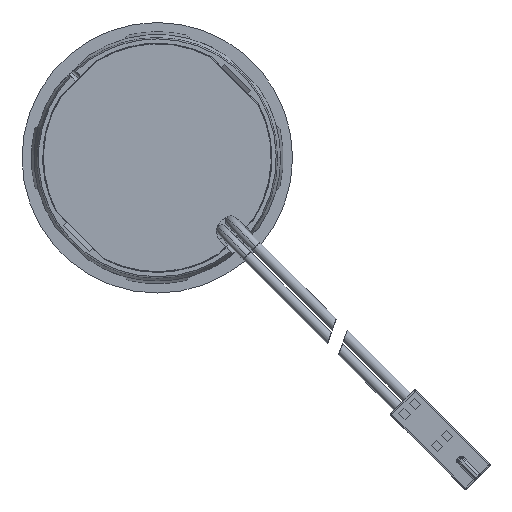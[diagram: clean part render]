
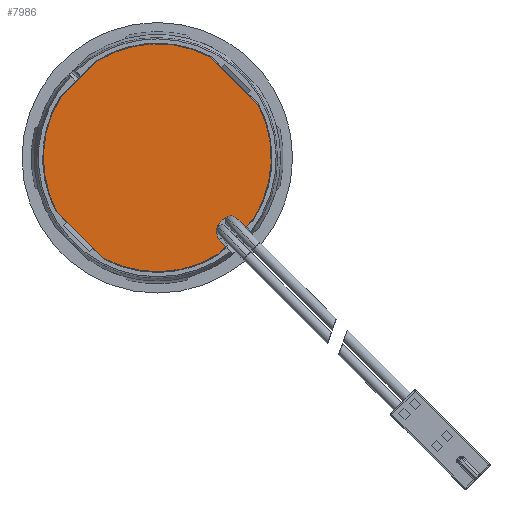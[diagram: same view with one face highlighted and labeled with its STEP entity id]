
A CAD part, front view. The second image highlights one B-rep face of the part: STEP entity #7986.
In plain terms, the highlighted planar face has unit normal (0, -1, 0) as drawn and (0, 0, -1) by its records, which use the part's own axes.
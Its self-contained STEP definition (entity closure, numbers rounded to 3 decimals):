
#592 = DIRECTION ( 'NONE',  ( 0., 1., 0. ) ) ;
#624 = ORIENTED_EDGE ( 'NONE', *, *, #2344, .F. ) ;
#666 = ORIENTED_EDGE ( 'NONE', *, *, #26565, .F. ) ;
#756 = EDGE_CURVE ( 'NONE', #27234, #25513, #22938, .T. ) ;
#1030 = VERTEX_POINT ( 'NONE', #17027 ) ;
#1042 = ORIENTED_EDGE ( 'NONE', *, *, #27023, .T. ) ;
#1201 = DIRECTION ( 'NONE',  ( 0., 0., 1. ) ) ;
#2344 = EDGE_CURVE ( 'NONE', #1030, #19379, #8933, .T. ) ;
#2749 = DIRECTION ( 'NONE',  ( 0., 1., 0. ) ) ;
#3357 = VERTEX_POINT ( 'NONE', #9403 ) ;
#3564 = VECTOR ( 'NONE', #19241, 1000. ) ;
#3671 = LINE ( 'NONE', #20546, #17444 ) ;
#4067 = ORIENTED_EDGE ( 'NONE', *, *, #8913, .F. ) ;
#4158 = CARTESIAN_POINT ( 'NONE',  ( -15.6, 3.555, 0. ) ) ;
#4209 = VERTEX_POINT ( 'NONE', #7648 ) ;
#4232 = LINE ( 'NONE', #12946, #3564 ) ;
#4383 = AXIS2_PLACEMENT_3D ( 'NONE', #8517, #26016, #6535 ) ;
#4529 = CARTESIAN_POINT ( 'NONE',  ( 15.6, -3.555, 0. ) ) ;
#4786 = LINE ( 'NONE', #10935, #12838 ) ;
#5580 = DIRECTION ( 'NONE',  ( -0.975, -0.222, 0. ) ) ;
#5816 = DIRECTION ( 'NONE',  ( 0., 1., 0. ) ) ;
#6535 = DIRECTION ( 'NONE',  ( -0.293, 0.956, 0. ) ) ;
#6566 = ORIENTED_EDGE ( 'NONE', *, *, #22441, .F. ) ;
#7272 = ORIENTED_EDGE ( 'NONE', *, *, #10102, .F. ) ;
#7621 = LINE ( 'NONE', #7905, #10685 ) ;
#7648 = CARTESIAN_POINT ( 'NONE',  ( 15.6, -2., 0. ) ) ;
#7789 = AXIS2_PLACEMENT_3D ( 'NONE', #20789, #1201, #9912 ) ;
#7905 = CARTESIAN_POINT ( 'NONE',  ( 15.6, 2., 0. ) ) ;
#7961 = VERTEX_POINT ( 'NONE', #18371 ) ;
#7986 = ADVANCED_FACE ( 'NONE', ( #16216 ), #25395, .F. ) ;
#8375 = AXIS2_PLACEMENT_3D ( 'NONE', #23097, #12206, #20932 ) ;
#8385 = CIRCLE ( 'NONE', #15249, 16. ) ;
#8517 = CARTESIAN_POINT ( 'NONE',  ( 0., 0., 0. ) ) ;
#8863 = VERTEX_POINT ( 'NONE', #15359 ) ;
#8913 = EDGE_CURVE ( 'NONE', #4209, #22495, #4786, .T. ) ;
#8933 = CIRCLE ( 'NONE', #4383, 16. ) ;
#9403 = CARTESIAN_POINT ( 'NONE',  ( 4.681, 15.3, 0. ) ) ;
#9912 = DIRECTION ( 'NONE',  ( 1., 0., 0. ) ) ;
#9981 = ORIENTED_EDGE ( 'NONE', *, *, #21409, .T. ) ;
#10102 = EDGE_CURVE ( 'NONE', #25513, #4209, #3671, .T. ) ;
#10399 = LINE ( 'NONE', #24012, #11862 ) ;
#10672 = VERTEX_POINT ( 'NONE', #22208 ) ;
#10685 = VECTOR ( 'NONE', #16634, 1000. ) ;
#10935 = CARTESIAN_POINT ( 'NONE',  ( 15.6, -2., 0. ) ) ;
#11053 = CARTESIAN_POINT ( 'NONE',  ( 0., 0., 0. ) ) ;
#11862 = VECTOR ( 'NONE', #17251, 1000. ) ;
#11863 = DIRECTION ( 'NONE',  ( 0., 0., 1. ) ) ;
#12021 = EDGE_CURVE ( 'NONE', #22495, #8863, #20713, .T. ) ;
#12206 = DIRECTION ( 'NONE',  ( 0., 0., -1. ) ) ;
#12767 = CARTESIAN_POINT ( 'NONE',  ( 0., 0., 0. ) ) ;
#12838 = VECTOR ( 'NONE', #17941, 1000. ) ;
#12872 = EDGE_LOOP ( 'NONE', ( #4067, #7272, #17563, #9981, #15973, #1042, #624, #25730, #6566, #666, #22054, #24241 ) ) ;
#12946 = CARTESIAN_POINT ( 'NONE',  ( -4.681, 15.3, 0. ) ) ;
#13180 = CARTESIAN_POINT ( 'NONE',  ( 15.6, 2., 0. ) ) ;
#13349 = DIRECTION ( 'NONE',  ( 0.293, -0.956, 0. ) ) ;
#13756 = VECTOR ( 'NONE', #592, 1000. ) ;
#15249 = AXIS2_PLACEMENT_3D ( 'NONE', #12767, #24082, #24224 ) ;
#15359 = CARTESIAN_POINT ( 'NONE',  ( 14.6, 2., 0. ) ) ;
#15516 = CARTESIAN_POINT ( 'NONE',  ( 4.681, -15.3, 0. ) ) ;
#15973 = ORIENTED_EDGE ( 'NONE', *, *, #21046, .F. ) ;
#16207 = CARTESIAN_POINT ( 'NONE',  ( -4.681, -15.3, 0. ) ) ;
#16216 = FACE_OUTER_BOUND ( 'NONE', #12872, .T. ) ;
#16634 = DIRECTION ( 'NONE',  ( -1., 0., 0. ) ) ;
#17027 = CARTESIAN_POINT ( 'NONE',  ( -4.681, 15.3, 0. ) ) ;
#17251 = DIRECTION ( 'NONE',  ( -1., 0., 0. ) ) ;
#17321 = LINE ( 'NONE', #13180, #13756 ) ;
#17444 = VECTOR ( 'NONE', #5816, 1000. ) ;
#17473 = CARTESIAN_POINT ( 'NONE',  ( 14.6, -2., 0. ) ) ;
#17563 = ORIENTED_EDGE ( 'NONE', *, *, #756, .F. ) ;
#17781 = CIRCLE ( 'NONE', #21455, 16. ) ;
#17941 = DIRECTION ( 'NONE',  ( -1., 0., 0. ) ) ;
#18371 = CARTESIAN_POINT ( 'NONE',  ( -15.6, -3.555, 0. ) ) ;
#18385 = EDGE_CURVE ( 'NONE', #1030, #3357, #4232, .T. ) ;
#18819 = AXIS2_PLACEMENT_3D ( 'NONE', #11053, #19777, #13349 ) ;
#19241 = DIRECTION ( 'NONE',  ( 1., 0., 0. ) ) ;
#19379 = VERTEX_POINT ( 'NONE', #4158 ) ;
#19777 = DIRECTION ( 'NONE',  ( 0., 0., 1. ) ) ;
#20139 = VECTOR ( 'NONE', #2749, 1000. ) ;
#20546 = CARTESIAN_POINT ( 'NONE',  ( 15.6, -3.555, 0. ) ) ;
#20713 = CIRCLE ( 'NONE', #8375, 2. ) ;
#20789 = CARTESIAN_POINT ( 'NONE',  ( 0., 0., 0. ) ) ;
#20932 = DIRECTION ( 'NONE',  ( 0., -1., 0. ) ) ;
#21046 = EDGE_CURVE ( 'NONE', #7961, #26363, #17781, .T. ) ;
#21195 = VERTEX_POINT ( 'NONE', #23172 ) ;
#21409 = EDGE_CURVE ( 'NONE', #27234, #26363, #10399, .T. ) ;
#21455 = AXIS2_PLACEMENT_3D ( 'NONE', #25187, #11863, #5580 ) ;
#22054 = ORIENTED_EDGE ( 'NONE', *, *, #22187, .T. ) ;
#22187 = EDGE_CURVE ( 'NONE', #10672, #8863, #7621, .T. ) ;
#22208 = CARTESIAN_POINT ( 'NONE',  ( 15.6, 2., 0. ) ) ;
#22441 = EDGE_CURVE ( 'NONE', #21195, #3357, #8385, .T. ) ;
#22495 = VERTEX_POINT ( 'NONE', #17473 ) ;
#22650 = CARTESIAN_POINT ( 'NONE',  ( -15.6, -3.555, 0. ) ) ;
#22938 = CIRCLE ( 'NONE', #18819, 16. ) ;
#23097 = CARTESIAN_POINT ( 'NONE',  ( 14.6, 0., 0. ) ) ;
#23172 = CARTESIAN_POINT ( 'NONE',  ( 15.6, 3.555, 0. ) ) ;
#24012 = CARTESIAN_POINT ( 'NONE',  ( 4.681, -15.3, 0. ) ) ;
#24082 = DIRECTION ( 'NONE',  ( 0., 0., 1. ) ) ;
#24224 = DIRECTION ( 'NONE',  ( 0.975, 0.222, 0. ) ) ;
#24241 = ORIENTED_EDGE ( 'NONE', *, *, #12021, .F. ) ;
#25187 = CARTESIAN_POINT ( 'NONE',  ( 0., 0., 0. ) ) ;
#25395 = PLANE ( 'NONE',  #7789 ) ;
#25513 = VERTEX_POINT ( 'NONE', #4529 ) ;
#25730 = ORIENTED_EDGE ( 'NONE', *, *, #18385, .T. ) ;
#26016 = DIRECTION ( 'NONE',  ( 0., 0., 1. ) ) ;
#26363 = VERTEX_POINT ( 'NONE', #16207 ) ;
#26565 = EDGE_CURVE ( 'NONE', #10672, #21195, #17321, .T. ) ;
#27023 = EDGE_CURVE ( 'NONE', #7961, #19379, #27232, .T. ) ;
#27232 = LINE ( 'NONE', #22650, #20139 ) ;
#27234 = VERTEX_POINT ( 'NONE', #15516 ) ;
